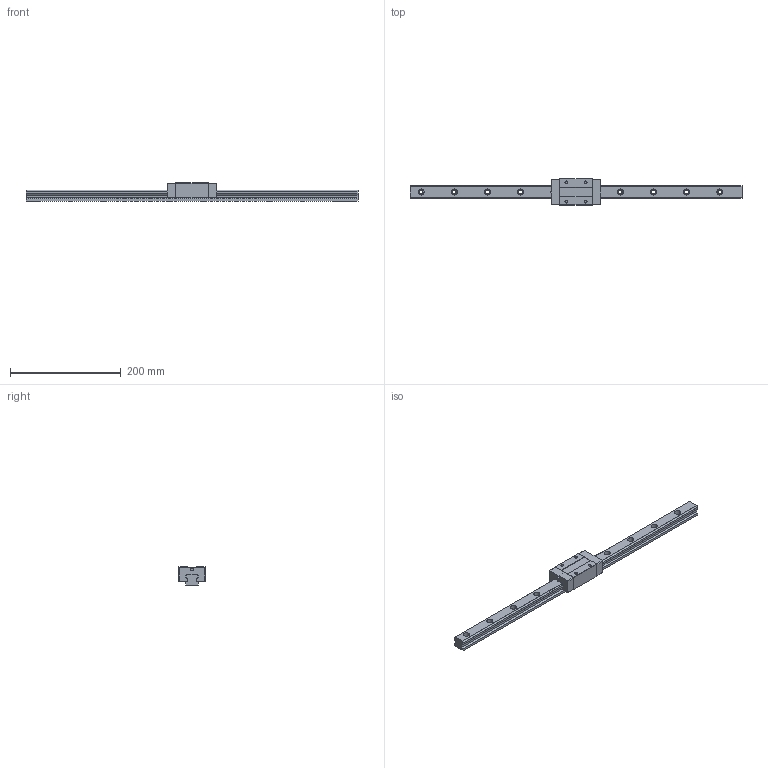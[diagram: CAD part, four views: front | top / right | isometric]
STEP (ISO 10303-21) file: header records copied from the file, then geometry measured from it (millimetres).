
FILE_DESCRIPTION (( 'STEP AP203' ), '1' );
FILE_NAME ('TRS25VN-ZN-§ï.STEP', '2023-08-31T07:53:42', ( '' ), ( '' ), 'SwSTEP 2.0', 'SolidWorks 2022', '' );
FILE_SCHEMA (( 'CONFIG_CONTROL_DESIGN' ));
Length unit declared in the file: millimetre
Products named in the file (1): TRS25VN-ZN-改
Bounding box: 600 x 48 x 33 mm (x, y, z)
Volume: 321979 mm3; surface area: 74678.4 mm2
Topology: 1 solids, 1 shells, 177 faces, 476 edges, 314 vertices
Faces by surface type: plane 89, cylinder 88
Entity records: 5709 total; most frequent: DIRECTION 1010, CARTESIAN_POINT 968, ORIENTED_EDGE 952, EDGE_CURVE 476, AXIS2_PLACEMENT_3D 356, VERTEX_POINT 314, LINE 298, VECTOR 298
